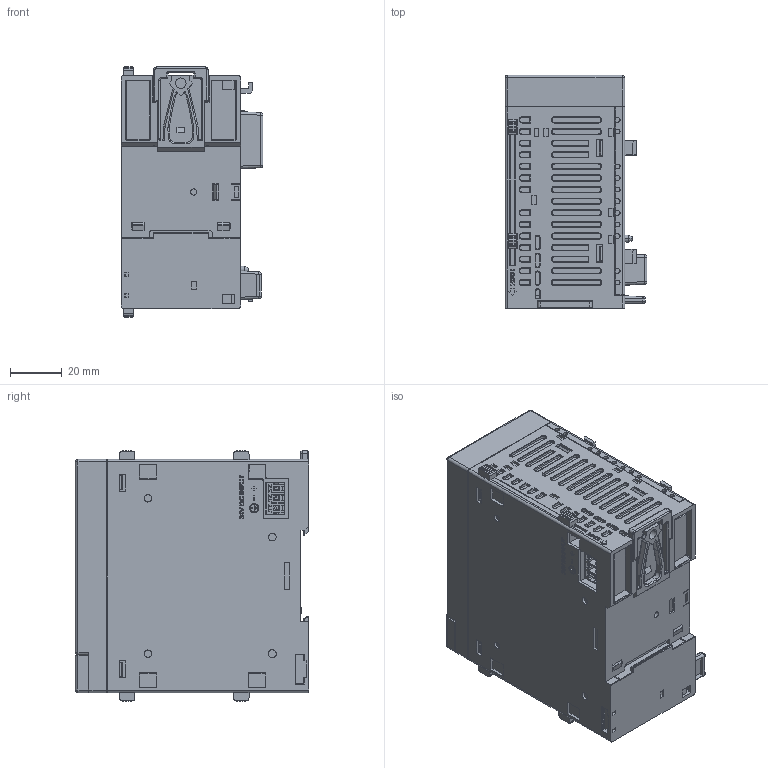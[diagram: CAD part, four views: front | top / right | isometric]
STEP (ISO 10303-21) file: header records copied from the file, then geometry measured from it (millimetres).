
FILE_DESCRIPTION((''),'2;1');
FILE_NAME('MPLC-GATEWAY_ASM','2025-01-05T22:36:52',('Jacky Chang'),(''),'CREO PARAMETRIC BY PTC INC, 2021284','CREO PARAMETRIC BY PTC INC, 2021284','');
FILE_SCHEMA(('CONFIG_CONTROL_DESIGN','SHAPE_APPEARANCE_LAYERS_GROUPS'));
Products named in the file (2): MPLC-GATEWAY-DOWN-COVER; MPLC-GATEWAY_ASM
Assembly tree (1 placements, depth 2):
  MPLC-GATEWAY_ASM
    MPLC-GATEWAY-DOWN-COVER
Bounding box: 54.8 x 90 x 96.6 mm (x, y, z)
Volume: 359747.7 mm3; surface area: 46561.3 mm2
Topology: 1 solids, 6 shells, 3230 faces, 8410 edges, 5349 vertices
Faces by surface type: plane 2035, cylinder 740, extrusion 146, torus 140, cone 125, sphere 36, bspline 8
Entity records: 137699 total; most frequent: CARTESIAN_POINT 19819, ORIENTED_EDGE 16804, DIRECTION 15754, PRESENTATION_STYLE_ASSIGNMENT 9778, STYLED_ITEM 8403, CURVE_STYLE 8402, EDGE_CURVE 8402, VECTOR 6432
